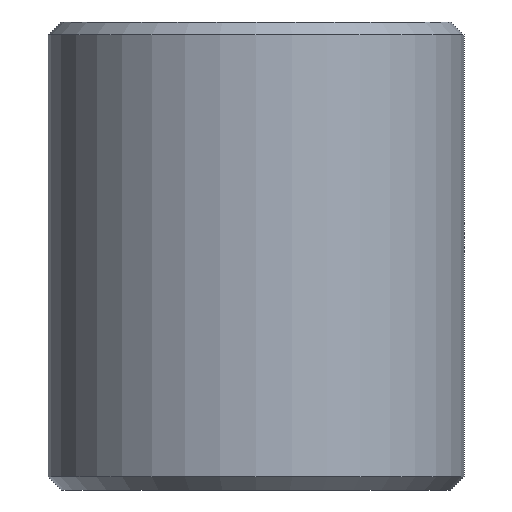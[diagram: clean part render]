
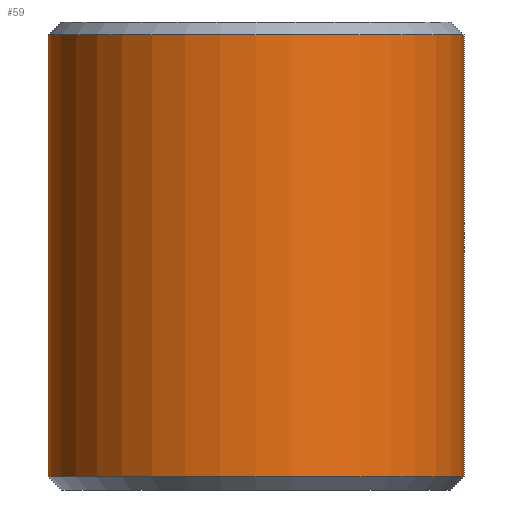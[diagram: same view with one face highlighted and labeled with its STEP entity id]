
A CAD part, front view. The second image highlights one B-rep face of the part: STEP entity #59.
In plain terms, the highlighted cylindrical face has radius 8 mm (diameter 16 mm), a partial arc.
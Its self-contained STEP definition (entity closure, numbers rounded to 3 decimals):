
#59=ADVANCED_FACE('',(#85),#86,.T.);
#85=FACE_OUTER_BOUND('',#116,.T.);
#86=CYLINDRICAL_SURFACE('',#117,8.0);
#116=EDGE_LOOP('',(#185,#186,#187,#188));
#117=AXIS2_PLACEMENT_3D('',#189,#190,#191);
#185=ORIENTED_EDGE('',*,*,#246,.T.);
#186=ORIENTED_EDGE('',*,*,#252,.T.);
#187=ORIENTED_EDGE('',*,*,#247,.T.);
#188=ORIENTED_EDGE('',*,*,#253,.T.);
#189=CARTESIAN_POINT('',(0.0,0.0,0.0));
#190=DIRECTION('',(0.0,0.0,-1.0));
#191=DIRECTION('',(1.0,0.0,0.0));
#246=EDGE_CURVE('',#281,#269,#290,.T.);
#247=EDGE_CURVE('',#265,#285,#291,.T.);
#252=EDGE_CURVE('',#269,#265,#296,.T.);
#253=EDGE_CURVE('',#285,#281,#297,.T.);
#265=VERTEX_POINT('',#311);
#269=VERTEX_POINT('',#316);
#281=VERTEX_POINT('',#331);
#285=VERTEX_POINT('',#336);
#290=LINE('',#344,#345);
#291=LINE('',#346,#347);
#296=CIRCLE('',#352,8.0);
#297=CIRCLE('',#353,8.0);
#311=CARTESIAN_POINT('',(-8.0,0.,17.5));
#316=CARTESIAN_POINT('',(8.0,0.0,17.5));
#331=CARTESIAN_POINT('',(8.0,0.,0.5));
#336=CARTESIAN_POINT('',(-8.0,0.0,0.5));
#344=CARTESIAN_POINT('',(8.0,0.,9.0));
#345=VECTOR('',#390,1.0);
#346=CARTESIAN_POINT('',(-8.0,0.,9.0));
#347=VECTOR('',#391,1.0);
#352=AXIS2_PLACEMENT_3D('',#404,#405,#406);
#353=AXIS2_PLACEMENT_3D('',#407,#408,#409);
#390=DIRECTION('',(-0.0,-0.0,1.0));
#391=DIRECTION('',(0.0,0.0,-1.0));
#404=CARTESIAN_POINT('',(0.0,0.0,17.5));
#405=DIRECTION('',(0.0,0.0,-1.0));
#406=DIRECTION('',(1.0,0.0,0.0));
#407=CARTESIAN_POINT('',(0.0,0.0,0.5));
#408=DIRECTION('',(0.0,0.0,1.0));
#409=DIRECTION('',(-1.0,0.0,0.0));
